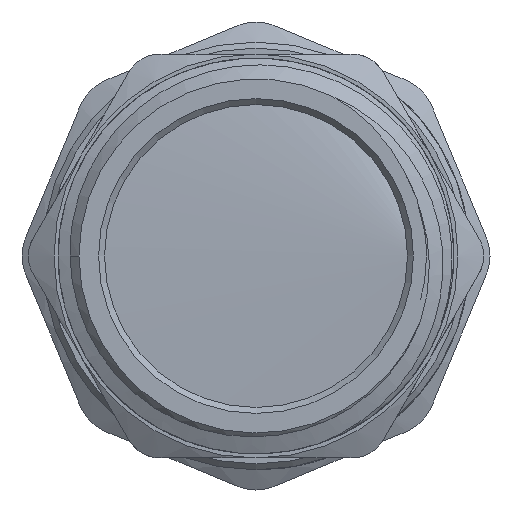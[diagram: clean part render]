
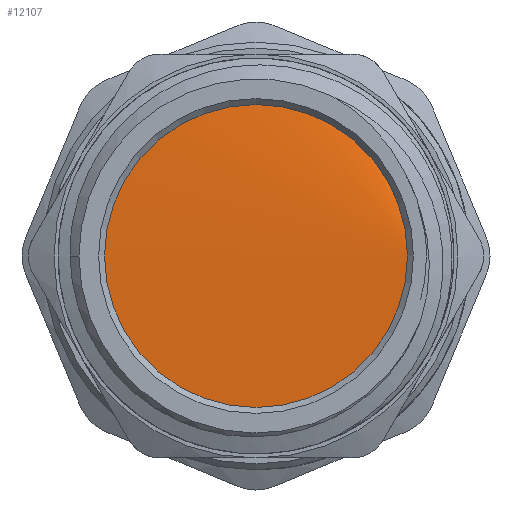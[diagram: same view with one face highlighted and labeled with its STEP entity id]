
A CAD part, left-side view. The second image highlights one B-rep face of the part: STEP entity #12107.
In plain terms, the highlighted cylindrical face has radius 14.35 mm (diameter 28.7 mm), a full revolution.
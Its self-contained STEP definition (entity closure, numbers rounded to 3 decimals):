
#1012=FACE_OUTER_BOUND('',#1703,.T.);
#1703=EDGE_LOOP('',(#8108,#8109,#8110));
#2454=B_SPLINE_CURVE_WITH_KNOTS('',3,(#15459,#15460,#15461,#15462,#15463,
#15464,#15465,#15466,#15467,#15468,#15469,#15470,#15471,#15472,#15473,#15474,
#15475),.UNSPECIFIED.,.F.,.F.,(4,1,1,1,1,1,1,1,1,1,1,1,1,1,4),(15.708,
15.819,16.317,16.814,17.311,17.808,
18.306,18.803,19.3,19.797,20.295,
20.792,21.289,21.786,21.991),
 .UNSPECIFIED.);
#3293=LINE('',#15456,#4065);
#3294=LINE('',#15458,#4066);
#4065=VECTOR('',#13442,14.35);
#4066=VECTOR('',#13443,14.35);
#4837=VERTEX_POINT('',#15454);
#4838=VERTEX_POINT('',#15455);
#4839=VERTEX_POINT('',#15457);
#6156=EDGE_CURVE('',#4837,#4838,#3293,.T.);
#6157=EDGE_CURVE('',#4839,#4837,#3294,.T.);
#6158=EDGE_CURVE('',#4839,#4838,#2454,.T.);
#8108=ORIENTED_EDGE('',*,*,#6156,.F.);
#8109=ORIENTED_EDGE('',*,*,#6157,.F.);
#8110=ORIENTED_EDGE('',*,*,#6158,.T.);
#12012=CYLINDRICAL_SURFACE('',#12818,14.35);
#12107=ADVANCED_FACE('',(#1012),#12012,.T.);
#12818=AXIS2_PLACEMENT_3D('',#15453,#13440,#13441);
#13440=DIRECTION('center_axis',(1.,0.,0.));
#13441=DIRECTION('ref_axis',(0.,1.,0.));
#13442=DIRECTION('',(1.,0.,0.));
#13443=DIRECTION('',(1.,0.,0.));
#15453=CARTESIAN_POINT('Origin',(-26.4,0.,0.));
#15454=CARTESIAN_POINT('',(-20.05,-14.35,0.));
#15455=CARTESIAN_POINT('',(-17.65,-14.35,0.));
#15456=CARTESIAN_POINT('',(-26.4,-14.35,0.));
#15457=CARTESIAN_POINT('',(-20.15,-14.35,0.));
#15458=CARTESIAN_POINT('',(-26.4,-14.35,0.));
#15459=CARTESIAN_POINT('Ctrl Pts',(-20.15,-14.35,
0.));
#15460=CARTESIAN_POINT('Ctrl Pts',(-20.135,-14.351,
-0.533));
#15461=CARTESIAN_POINT('Ctrl Pts',(-20.055,-14.192,
-3.443));
#15462=CARTESIAN_POINT('Ctrl Pts',(-19.908,-12.27,
-8.55));
#15463=CARTESIAN_POINT('Ctrl Pts',(-19.71,-6.706,
-13.367));
#15464=CARTESIAN_POINT('Ctrl Pts',(-19.512,0.483,
-14.947));
#15465=CARTESIAN_POINT('Ctrl Pts',(-19.314,7.555,-12.906));
#15466=CARTESIAN_POINT('Ctrl Pts',(-19.116,12.797,-7.739));
#15467=CARTESIAN_POINT('Ctrl Pts',(-18.919,14.939,-0.698));
#15468=CARTESIAN_POINT('Ctrl Pts',(-18.721,13.462,6.513));
#15469=CARTESIAN_POINT('Ctrl Pts',(-18.523,8.725,12.146));
#15470=CARTESIAN_POINT('Ctrl Pts',(-18.325,1.874,14.837));
#15471=CARTESIAN_POINT('Ctrl Pts',(-18.127,-5.43,
13.934));
#15472=CARTESIAN_POINT('Ctrl Pts',(-17.929,-11.42,9.656));
#15473=CARTESIAN_POINT('Ctrl Pts',(-17.77,-14.011,4.337));
#15474=CARTESIAN_POINT('Ctrl Pts',(-17.677,-14.349,
0.979));
#15475=CARTESIAN_POINT('Ctrl Pts',(-17.65,-14.349,
0.));
